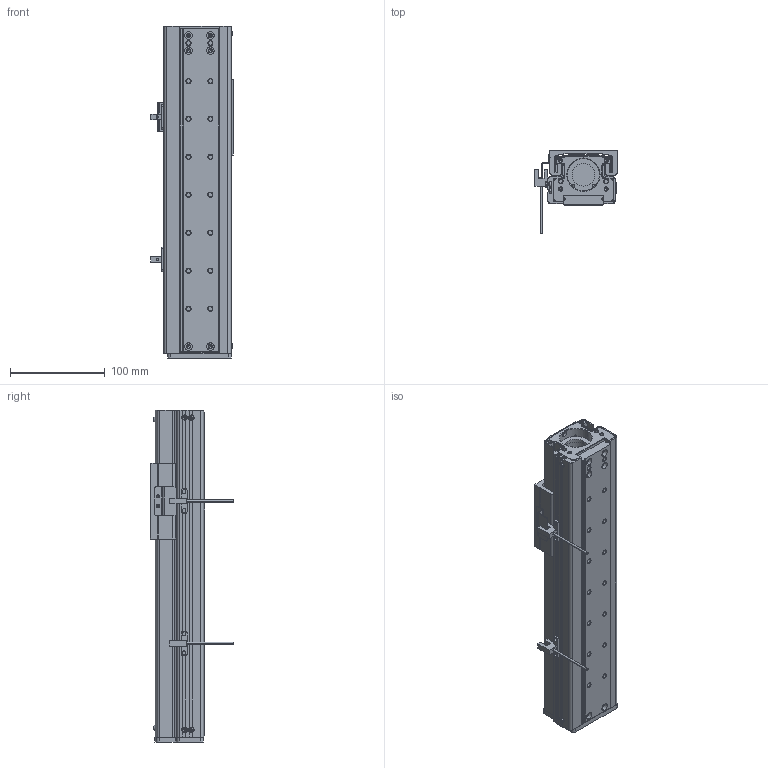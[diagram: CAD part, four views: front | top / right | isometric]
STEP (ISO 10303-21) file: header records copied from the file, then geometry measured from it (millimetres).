
FILE_DESCRIPTION (( 'STEP AP203' ), '1' );
FILE_NAME ('CTHM6-S150.STEP', '2019-12-18T01:41:16', ( '微软用户' ), ( '微软中国' ), 'SwSTEP 2.0', 'SolidWorks 2017', '' );
FILE_SCHEMA (( 'CONFIG_CONTROL_DESIGN' ));
Length unit declared in the file: millimetre
Products named in the file (17): DG60傷裔(祥結傷裔); 蟀諉釱(裔啣党蜊); M4-L10囀鞠褒蹟佪; LMW15AA; 侧挡板2(带磁条修改厚度); 固定侧轴承座(自制轴承座); M3-L6半圆头内六角螺丝; 羲壽え; M3-L6囀鞠褒蹟佪; 支持侧轴承座(带磁条); EE-SX672-BR; 遣喳蝶15x12x8; 滅袉蝶; MG60裔啣; CTHM6-S150; 耜結啣(湍羞); LMW15奻窅
Assembly tree (29 placements, depth 2):
  CTHM6-S150
    LMW15奻窅
    蟀諉釱(裔啣党蜊)
    LMW15AA
    固定侧轴承座(自制轴承座)
    羲壽え
    支持侧轴承座(带磁条)
    遣喳蝶15x12x8  x2
    MG60裔啣
    耜結啣(湍羞)
    DG60傷裔(祥結傷裔)
    M4-L10囀鞠褒蹟佪  x2
    侧挡板2(带磁条修改厚度)
    M3-L6半圆头内六角螺丝  x8
    M3-L6囀鞠褒蹟佪  x4
    EE-SX672-BR  x2
    滅袉蝶
Bounding box: 86.7 x 87.8 x 350 mm (x, y, z)
Volume: 496033.5 mm3; surface area: 307806.7 mm2
Topology: 33 solids, 33 shells, 1767 faces, 4582 edges, 2840 vertices
Faces by surface type: plane 762, cylinder 625, cone 266, torus 88, bspline 26
Entity records: 48048 total; most frequent: CARTESIAN_POINT 10269, DIRECTION 7642, ORIENTED_EDGE 7380, EDGE_CURVE 3690, AXIS2_PLACEMENT_3D 2814, VERTEX_POINT 2341, LINE 2014, VECTOR 2014
